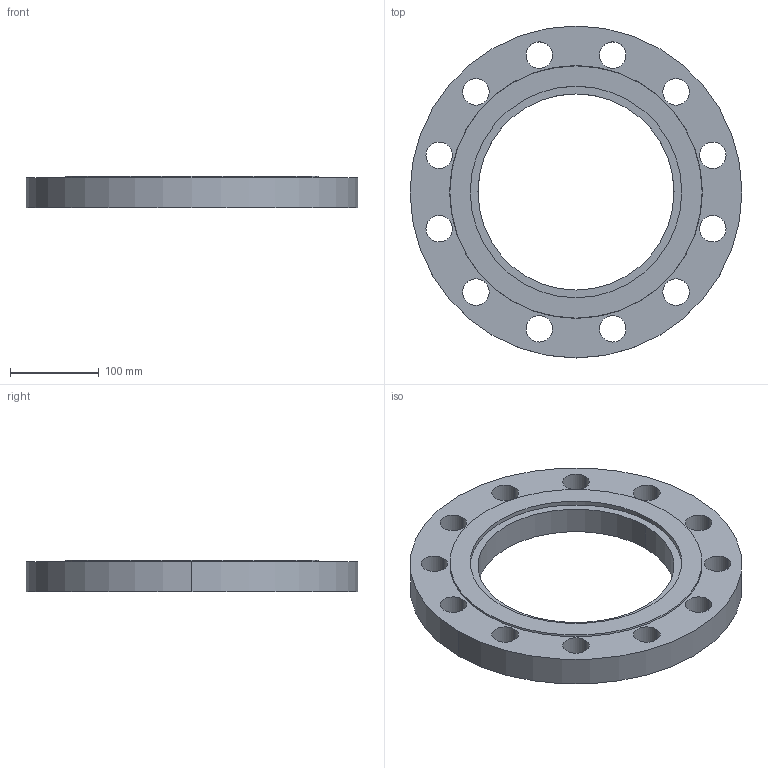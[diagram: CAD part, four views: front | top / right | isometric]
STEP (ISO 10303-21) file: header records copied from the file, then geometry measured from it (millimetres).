
FILE_DESCRIPTION (( 'STEP AP214' ), '1' );
FILE_NAME ('PN40 DN200 Type 01 - Type G Face.STEP', '2019-01-05T02:27:45', ( '' ), ( '' ), 'SwSTEP 2.0', 'SolidWorks 2019', '' );
FILE_SCHEMA (( 'AUTOMOTIVE_DESIGN' ));
Length unit declared in the file: millimetre
Products named in the file (1): PN40 DN200 Type 01 - Type G Face
Bounding box: 375 x 375 x 36 mm (x, y, z)
Volume: 2175841.6 mm3; surface area: 232200.6 mm2
Topology: 1 solids, 1 shells, 36 faces, 96 edges, 64 vertices
Faces by surface type: cylinder 30, plane 4, cone 2
Entity records: 1250 total; most frequent: DIRECTION 234, CARTESIAN_POINT 197, ORIENTED_EDGE 192, AXIS2_PLACEMENT_3D 101, EDGE_CURVE 96, VERTEX_POINT 64, EDGE_LOOP 64, CIRCLE 64
